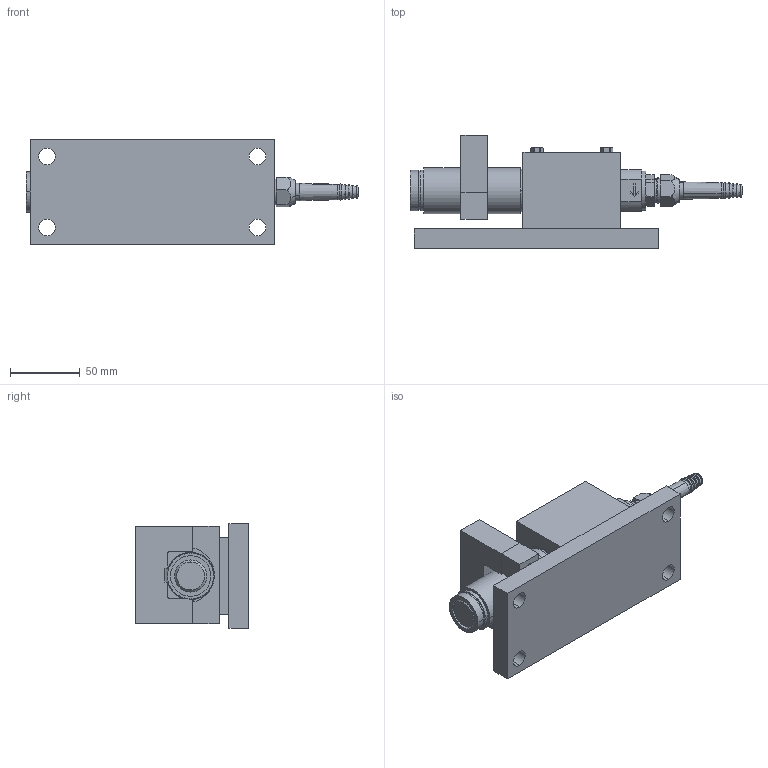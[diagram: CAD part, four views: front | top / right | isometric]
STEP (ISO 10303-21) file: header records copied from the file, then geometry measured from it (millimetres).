
FILE_DESCRIPTION (( 'STEP AP214' ), '1' );
FILE_NAME ('KIS-2 1-5 kN Module.STEP', '2021-07-01T07:00:14', ( '' ), ( '' ), 'SwSTEP 2.0', 'SolidWorks 2021', '' );
FILE_SCHEMA (( 'AUTOMOTIVE_DESIGN' ));
Length unit declared in the file: millimetre
Products named in the file (12): 4087786r5; Wiberger-frp_A2_4x14; Wiberger-din933_m5x40; 1130486 - KIS-2 5kN Rostfri; 6304488r4; 6355275r3; Pg9 - 1009.52 6_2_14; M26x1.5 - Pg9 - 6369829; 5178691r1_Default<As Machined>; KIS-2 1-5 kN Module; 6335015r4; 6335014r1
Assembly tree (12 placements, depth 3):
  KIS-2 1-5 kN Module
    1130486 - KIS-2 5kN Rostfri
      4087786r5
      6335015r4
      6335014r1
      M26x1.5 - Pg9 - 6369829
      Pg9 - 1009.52 6_2_14
      Wiberger-frp_A2_4x14
    5178691r1_Default<As Machined>
    6304488r4
    6355275r3
    Wiberger-din933_m5x40  x2
Bounding box: 238 x 81 x 75 mm (x, y, z)
Volume: 524437.7 mm3; surface area: 130077.8 mm2
Topology: 12 solids, 15 shells, 513 faces, 1274 edges, 820 vertices
Faces by surface type: plane 250, cylinder 139, cone 73, bspline 39, torus 12
Entity records: 21049 total; most frequent: CARTESIAN_POINT 8497, ORIENTED_EDGE 2432, DIRECTION 2286, EDGE_CURVE 1216, AXIS2_PLACEMENT_3D 790, VERTEX_POINT 786, LINE 706, VECTOR 706
